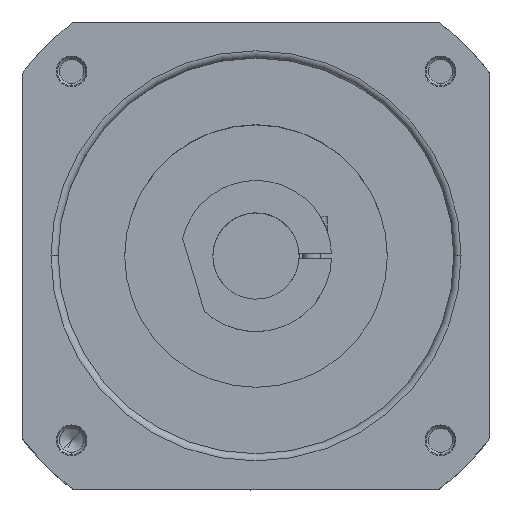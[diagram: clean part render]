
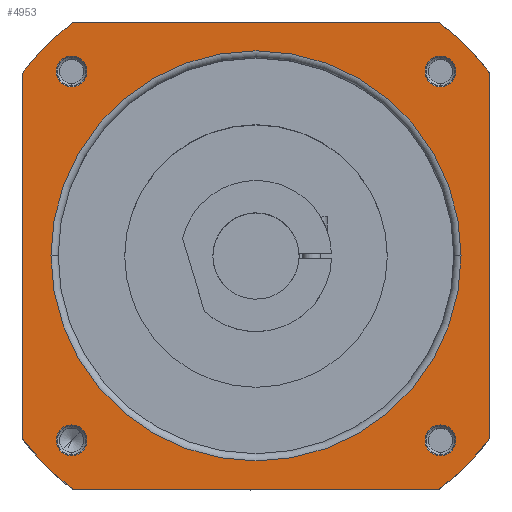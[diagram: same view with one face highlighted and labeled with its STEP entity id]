
A CAD part, top view. The second image highlights one B-rep face of the part: STEP entity #4953.
In plain terms, the highlighted planar face has unit normal (0, 0, 1) as drawn and (0, 1, 0) by its records, which use the part's own axes.
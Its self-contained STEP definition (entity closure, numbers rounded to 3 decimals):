
#3773=CARTESIAN_POINT('',(0.,66.,0.));
#3774=DIRECTION('',(0.,1.,0.));
#3775=DIRECTION('',(0.788,0.,-0.616));
#3776=AXIS2_PLACEMENT_3D('',#3773,#3774,#3775);
#3778=DIRECTION('',(0.,0.,-1.));
#3779=VECTOR('',#3778,101.612);
#3780=CARTESIAN_POINT('',(65.,66.,50.806));
#3781=LINE('',#3780,#3779);
#3782=CARTESIAN_POINT('',(0.,66.,0.));
#3783=DIRECTION('',(0.,1.,0.));
#3784=DIRECTION('',(0.616,0.,0.788));
#3785=AXIS2_PLACEMENT_3D('',#3782,#3783,#3784);
#3787=DIRECTION('',(1.,0.,0.));
#3788=VECTOR('',#3787,101.612);
#3789=CARTESIAN_POINT('',(-50.806,66.,65.));
#3790=LINE('',#3789,#3788);
#3791=CARTESIAN_POINT('',(0.,66.,0.));
#3792=DIRECTION('',(0.,1.,0.));
#3793=DIRECTION('',(-0.788,0.,0.616));
#3794=AXIS2_PLACEMENT_3D('',#3791,#3792,#3793);
#3796=DIRECTION('',(0.,0.,1.));
#3797=VECTOR('',#3796,101.612);
#3798=CARTESIAN_POINT('',(-65.,66.,-50.806));
#3799=LINE('',#3798,#3797);
#3800=CARTESIAN_POINT('',(0.,66.,0.));
#3801=DIRECTION('',(0.,1.,0.));
#3802=DIRECTION('',(-0.616,0.,-0.788));
#3803=AXIS2_PLACEMENT_3D('',#3800,#3801,#3802);
#3805=DIRECTION('',(-1.,0.,0.));
#3806=VECTOR('',#3805,101.612);
#3807=CARTESIAN_POINT('',(50.806,66.,-65.));
#3808=LINE('',#3807,#3806);
#3809=CARTESIAN_POINT('',(-51.265,66.,51.265));
#3810=DIRECTION('',(0.,-1.,0.));
#3811=DIRECTION('',(1.,0.,0.));
#3812=AXIS2_PLACEMENT_3D('',#3809,#3810,#3811);
#3819=CARTESIAN_POINT('',(-51.265,66.,51.265));
#3820=DIRECTION('',(0.,-1.,0.));
#3821=DIRECTION('',(-1.,0.,0.));
#3822=AXIS2_PLACEMENT_3D('',#3819,#3820,#3821);
#3855=CARTESIAN_POINT('',(-51.265,66.,-51.265));
#3856=DIRECTION('',(0.,-1.,0.));
#3857=DIRECTION('',(1.,0.,0.));
#3858=AXIS2_PLACEMENT_3D('',#3855,#3856,#3857);
#3865=CARTESIAN_POINT('',(-51.265,66.,-51.265));
#3866=DIRECTION('',(0.,-1.,0.));
#3867=DIRECTION('',(-1.,0.,0.));
#3868=AXIS2_PLACEMENT_3D('',#3865,#3866,#3867);
#3901=CARTESIAN_POINT('',(51.265,66.,-51.265));
#3902=DIRECTION('',(0.,-1.,0.));
#3903=DIRECTION('',(1.,0.,0.));
#3904=AXIS2_PLACEMENT_3D('',#3901,#3902,#3903);
#3911=CARTESIAN_POINT('',(51.265,66.,-51.265));
#3912=DIRECTION('',(0.,-1.,0.));
#3913=DIRECTION('',(-1.,0.,0.));
#3914=AXIS2_PLACEMENT_3D('',#3911,#3912,#3913);
#4272=CARTESIAN_POINT('',(51.265,66.,51.265));
#4273=DIRECTION('',(0.,-1.,0.));
#4274=DIRECTION('',(1.,0.,0.));
#4275=AXIS2_PLACEMENT_3D('',#4272,#4273,#4274);
#4282=CARTESIAN_POINT('',(51.265,66.,51.265));
#4283=DIRECTION('',(0.,-1.,0.));
#4284=DIRECTION('',(-1.,0.,0.));
#4285=AXIS2_PLACEMENT_3D('',#4282,#4283,#4284);
#4336=CARTESIAN_POINT('',(0.,66.,0.));
#4337=DIRECTION('',(0.,-1.,0.));
#4338=DIRECTION('',(0.,0.,1.));
#4339=AXIS2_PLACEMENT_3D('',#4336,#4337,#4338);
#4351=CARTESIAN_POINT('',(0.,66.,0.));
#4352=DIRECTION('',(0.,-1.,0.));
#4353=DIRECTION('',(0.,0.,-1.));
#4354=AXIS2_PLACEMENT_3D('',#4351,#4352,#4353);
#4601=CARTESIAN_POINT('',(-65.,66.,-50.806));
#4603=VERTEX_POINT('',#4601);
#4605=CARTESIAN_POINT('',(-65.,66.,50.806));
#4607=VERTEX_POINT('',#4605);
#4609=CARTESIAN_POINT('',(-50.806,66.,65.));
#4611=VERTEX_POINT('',#4609);
#4613=CARTESIAN_POINT('',(50.806,66.,65.));
#4615=VERTEX_POINT('',#4613);
#4617=CARTESIAN_POINT('',(65.,66.,-50.806));
#4619=VERTEX_POINT('',#4617);
#4621=CARTESIAN_POINT('',(65.,66.,50.806));
#4623=VERTEX_POINT('',#4621);
#4625=CARTESIAN_POINT('',(50.806,66.,-65.));
#4627=VERTEX_POINT('',#4625);
#4629=CARTESIAN_POINT('',(-50.806,66.,-65.));
#4631=VERTEX_POINT('',#4629);
#4662=CARTESIAN_POINT('',(55.54,66.,51.265));
#4663=CARTESIAN_POINT('',(46.99,66.,51.265));
#4664=VERTEX_POINT('',#4662);
#4665=VERTEX_POINT('',#4663);
#4670=CARTESIAN_POINT('',(-46.99,66.,51.265));
#4671=CARTESIAN_POINT('',(-55.54,66.,51.265));
#4672=VERTEX_POINT('',#4670);
#4673=VERTEX_POINT('',#4671);
#4678=CARTESIAN_POINT('',(-46.99,66.,-51.265));
#4679=CARTESIAN_POINT('',(-55.54,66.,-51.265));
#4680=VERTEX_POINT('',#4678);
#4681=VERTEX_POINT('',#4679);
#4686=CARTESIAN_POINT('',(55.54,66.,-51.265));
#4687=CARTESIAN_POINT('',(46.99,66.,-51.265));
#4688=VERTEX_POINT('',#4686);
#4689=VERTEX_POINT('',#4687);
#4726=CARTESIAN_POINT('',(0.,66.,57.));
#4727=CARTESIAN_POINT('',(0.,66.,-57.));
#4728=VERTEX_POINT('',#4726);
#4729=VERTEX_POINT('',#4727);
#4903=CARTESIAN_POINT('',(0.,66.,0.));
#4904=DIRECTION('',(0.,-1.,0.));
#4905=DIRECTION('',(-1.,0.,0.));
#4906=AXIS2_PLACEMENT_3D('',#4903,#4904,#4905);
#4907=PLANE('',#4906);
#4908=ORIENTED_EDGE('',*,*,#4874,.F.);
#4910=ORIENTED_EDGE('',*,*,#4909,.F.);
#4912=ORIENTED_EDGE('',*,*,#4911,.F.);
#4914=ORIENTED_EDGE('',*,*,#4913,.F.);
#4916=ORIENTED_EDGE('',*,*,#4915,.F.);
#4917=ORIENTED_EDGE('',*,*,#4888,.F.);
#4918=ORIENTED_EDGE('',*,*,#4862,.F.);
#4920=ORIENTED_EDGE('',*,*,#4919,.F.);
#4921=EDGE_LOOP('',(#4908,#4910,#4912,#4914,#4916,#4917,#4918,#4920));
#4922=FACE_OUTER_BOUND('',#4921,.F.);
#4924=ORIENTED_EDGE('',*,*,#4923,.F.);
#4926=ORIENTED_EDGE('',*,*,#4925,.F.);
#4927=EDGE_LOOP('',(#4924,#4926));
#4928=FACE_BOUND('',#4927,.F.);
#4930=ORIENTED_EDGE('',*,*,#4929,.F.);
#4932=ORIENTED_EDGE('',*,*,#4931,.F.);
#4933=EDGE_LOOP('',(#4930,#4932));
#4934=FACE_BOUND('',#4933,.F.);
#4936=ORIENTED_EDGE('',*,*,#4935,.F.);
#4938=ORIENTED_EDGE('',*,*,#4937,.F.);
#4939=EDGE_LOOP('',(#4936,#4938));
#4940=FACE_BOUND('',#4939,.F.);
#4942=ORIENTED_EDGE('',*,*,#4941,.F.);
#4944=ORIENTED_EDGE('',*,*,#4943,.F.);
#4945=EDGE_LOOP('',(#4942,#4944));
#4946=FACE_BOUND('',#4945,.F.);
#4948=ORIENTED_EDGE('',*,*,#4947,.F.);
#4950=ORIENTED_EDGE('',*,*,#4949,.F.);
#4951=EDGE_LOOP('',(#4948,#4950));
#4952=FACE_BOUND('',#4951,.F.);
#4953=ADVANCED_FACE('',(#4922,#4928,#4934,#4940,#4946,#4952),#4907,.F.);
#3777=CIRCLE('',#3776,82.5);
#3786=CIRCLE('',#3785,82.5);
#3795=CIRCLE('',#3794,82.5);
#3804=CIRCLE('',#3803,82.5);
#3813=CIRCLE('',#3812,4.275);
#3823=CIRCLE('',#3822,4.275);
#3859=CIRCLE('',#3858,4.275);
#3869=CIRCLE('',#3868,4.275);
#3905=CIRCLE('',#3904,4.275);
#3915=CIRCLE('',#3914,4.275);
#4276=CIRCLE('',#4275,4.275);
#4286=CIRCLE('',#4285,4.275);
#4340=CIRCLE('',#4339,57.);
#4355=CIRCLE('',#4354,57.);
#4862=EDGE_CURVE('',#4631,#4603,#3804,.T.);
#4874=EDGE_CURVE('',#4619,#4627,#3777,.T.);
#4888=EDGE_CURVE('',#4603,#4607,#3799,.T.);
#4909=EDGE_CURVE('',#4623,#4619,#3781,.T.);
#4911=EDGE_CURVE('',#4615,#4623,#3786,.T.);
#4913=EDGE_CURVE('',#4611,#4615,#3790,.T.);
#4915=EDGE_CURVE('',#4607,#4611,#3795,.T.);
#4919=EDGE_CURVE('',#4627,#4631,#3808,.T.);
#4923=EDGE_CURVE('',#4672,#4673,#3813,.T.);
#4925=EDGE_CURVE('',#4673,#4672,#3823,.T.);
#4929=EDGE_CURVE('',#4680,#4681,#3859,.T.);
#4931=EDGE_CURVE('',#4681,#4680,#3869,.T.);
#4935=EDGE_CURVE('',#4688,#4689,#3905,.T.);
#4937=EDGE_CURVE('',#4689,#4688,#3915,.T.);
#4941=EDGE_CURVE('',#4664,#4665,#4276,.T.);
#4943=EDGE_CURVE('',#4665,#4664,#4286,.T.);
#4947=EDGE_CURVE('',#4728,#4729,#4340,.T.);
#4949=EDGE_CURVE('',#4729,#4728,#4355,.T.);
